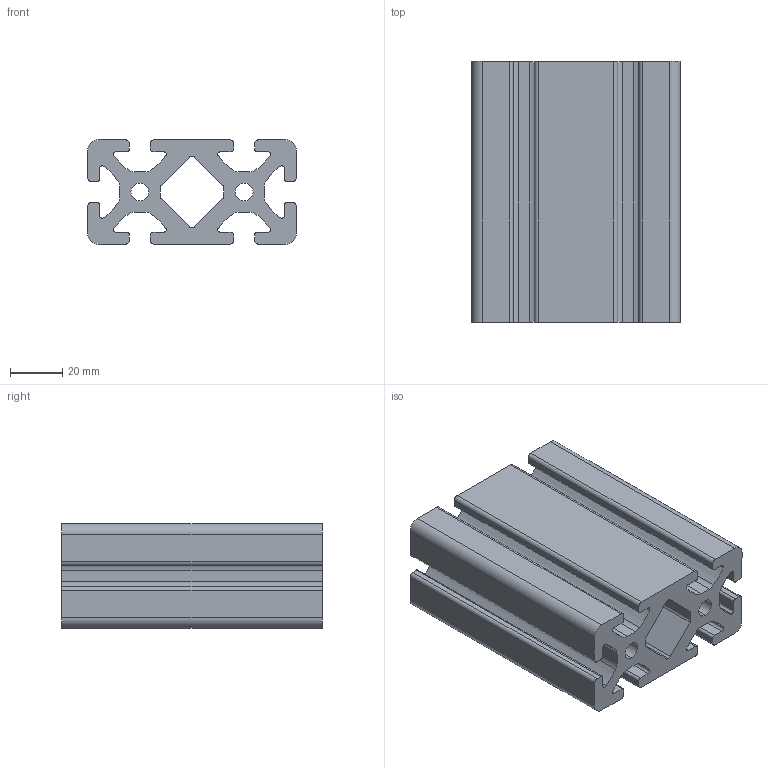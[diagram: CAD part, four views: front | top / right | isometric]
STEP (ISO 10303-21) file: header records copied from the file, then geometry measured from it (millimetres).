
FILE_DESCRIPTION (( 'STEP AP203' ), '1' );
FILE_NAME ('0108P8040S.STEP', '2024-02-29T11:50:08', ( 'Windows-Benutzer' ), ( '' ), 'SwSTEP 2.0', 'SolidWorks 2023', '' );
FILE_SCHEMA (( 'CONFIG_CONTROL_DESIGN' ));
Length unit declared in the file: millimetre
Products named in the file (1): 0108P8040S
Bounding box: 80 x 100 x 40 mm (x, y, z)
Volume: 177766.5 mm3; surface area: 61621.8 mm2
Topology: 1 solids, 1 shells, 125 faces, 369 edges, 246 vertices
Faces by surface type: cylinder 77, plane 48
Entity records: 4326 total; most frequent: DIRECTION 775, CARTESIAN_POINT 741, ORIENTED_EDGE 738, EDGE_CURVE 369, AXIS2_PLACEMENT_3D 280, VERTEX_POINT 246, VECTOR 215, LINE 215
